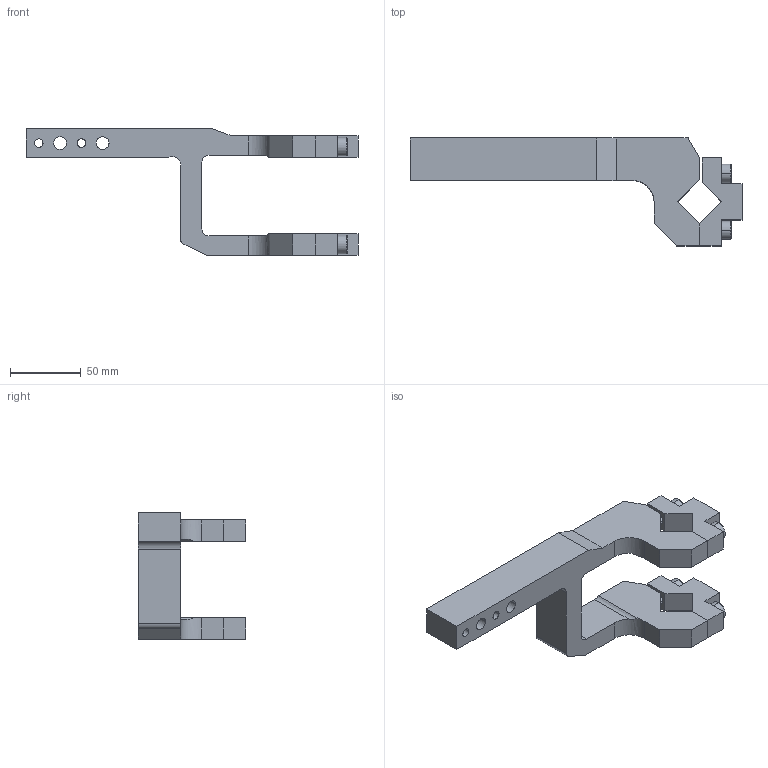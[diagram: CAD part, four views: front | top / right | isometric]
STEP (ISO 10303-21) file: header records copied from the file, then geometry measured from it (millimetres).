
FILE_DESCRIPTION((''),'2;1');
FILE_NAME('S:\Matthew\Step Files\XM Clamp Arms\XJ63-CAL-04.stp','2006-06-28T08:17:04',('Matthew'),(''),'Autodesk Inventor 8','Autodesk Inventor 8','');
FILE_SCHEMA(('AUTOMOTIVE_DESIGN { 1 0 10303 214 1 1 1 1 }'));
Length unit declared in the file: millimetre
Products named in the file (4): XJ63-CAL-04; XJ63-CAL-041; XJ63-CAL-042; XJ63-CAL-043
Assembly tree (3 placements, depth 2):
  XJ63-CAL-04
    XJ63-CAL-041
    XJ63-CAL-042
    XJ63-CAL-043
Bounding box: 234 x 76 x 89 mm (x, y, z)
Volume: 230675.7 mm3; surface area: 57262.8 mm2
Topology: 3 solids, 3 shells, 149 faces, 377 edges, 242 vertices
Faces by surface type: plane 62, bspline 47, cylinder 24, cone 16
Entity records: 4732 total; most frequent: CARTESIAN_POINT 1146, ORIENTED_EDGE 738, DIRECTION 673, EDGE_CURVE 369, VECTOR 279, LINE 279, VERTEX_POINT 242, AXIS2_PLACEMENT_3D 197
